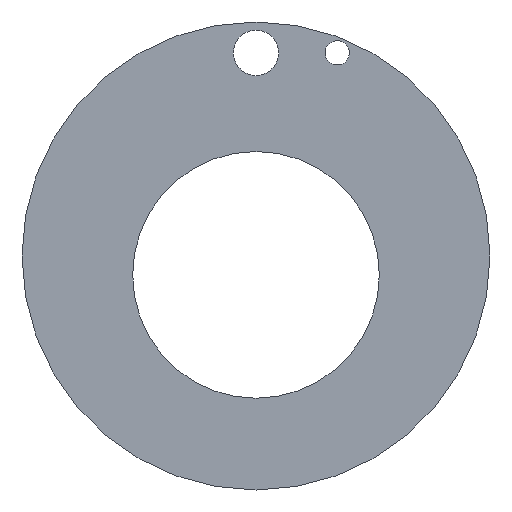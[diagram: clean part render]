
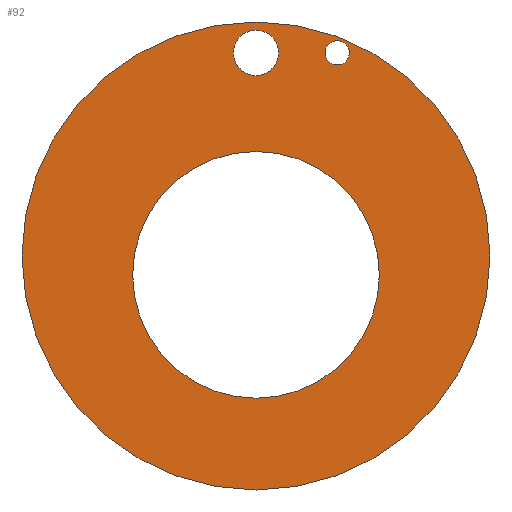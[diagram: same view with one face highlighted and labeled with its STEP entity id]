
A CAD part, front view. The second image highlights one B-rep face of the part: STEP entity #92.
In plain terms, the highlighted planar face has unit normal (0, -1, 0).
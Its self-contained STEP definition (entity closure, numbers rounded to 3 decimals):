
#31 = VERTEX_POINT('',#32);
#32 = CARTESIAN_POINT('',(0.,-27.789,199.735));
#38 = EDGE_CURVE('',#31,#31,#39,.T.);
#39 = CIRCLE('',#40,30.96);
#40 = AXIS2_PLACEMENT_3D('',#41,#42,#43);
#41 = CARTESIAN_POINT('',(0.,-27.789,168.775));
#42 = DIRECTION('',(0.,1.,0.));
#43 = DIRECTION('',(0.,0.,1.));
#92 = ADVANCED_FACE('',(#93,#96,#107,#118),#129,.F.);
#93 = FACE_BOUND('',#94,.F.);
#94 = EDGE_LOOP('',(#95));
#95 = ORIENTED_EDGE('',*,*,#38,.T.);
#96 = FACE_BOUND('',#97,.F.);
#97 = EDGE_LOOP('',(#98));
#98 = ORIENTED_EDGE('',*,*,#99,.F.);
#99 = EDGE_CURVE('',#100,#100,#102,.T.);
#100 = VERTEX_POINT('',#101);
#101 = CARTESIAN_POINT('',(0.,-27.789,182.595));
#102 = CIRCLE('',#103,16.32);
#103 = AXIS2_PLACEMENT_3D('',#104,#105,#106);
#104 = CARTESIAN_POINT('',(0.,-27.789,166.275));
#105 = DIRECTION('',(0.,1.,0.));
#106 = DIRECTION('',(0.,0.,1.));
#107 = FACE_BOUND('',#108,.F.);
#108 = EDGE_LOOP('',(#109));
#109 = ORIENTED_EDGE('',*,*,#110,.F.);
#110 = EDGE_CURVE('',#111,#111,#113,.T.);
#111 = VERTEX_POINT('',#112);
#112 = CARTESIAN_POINT('',(0.,-27.789,198.65));
#113 = CIRCLE('',#114,3.);
#114 = AXIS2_PLACEMENT_3D('',#115,#116,#117);
#115 = CARTESIAN_POINT('',(0.,-27.789,195.65));
#116 = DIRECTION('',(0.,1.,0.));
#117 = DIRECTION('',(0.,0.,1.));
#118 = FACE_BOUND('',#119,.F.);
#119 = EDGE_LOOP('',(#120));
#120 = ORIENTED_EDGE('',*,*,#121,.F.);
#121 = EDGE_CURVE('',#122,#122,#124,.T.);
#122 = VERTEX_POINT('',#123);
#123 = CARTESIAN_POINT('',(10.75,-27.789,197.25));
#124 = CIRCLE('',#125,1.6);
#125 = AXIS2_PLACEMENT_3D('',#126,#127,#128);
#126 = CARTESIAN_POINT('',(10.75,-27.789,195.65));
#127 = DIRECTION('',(0.,1.,0.));
#128 = DIRECTION('',(0.,0.,1.));
#129 = PLANE('',#130);
#130 = AXIS2_PLACEMENT_3D('',#131,#132,#133);
#131 = CARTESIAN_POINT('',(0.,-27.789,168.775));
#132 = DIRECTION('',(0.,1.,0.));
#133 = DIRECTION('',(0.,0.,1.));
